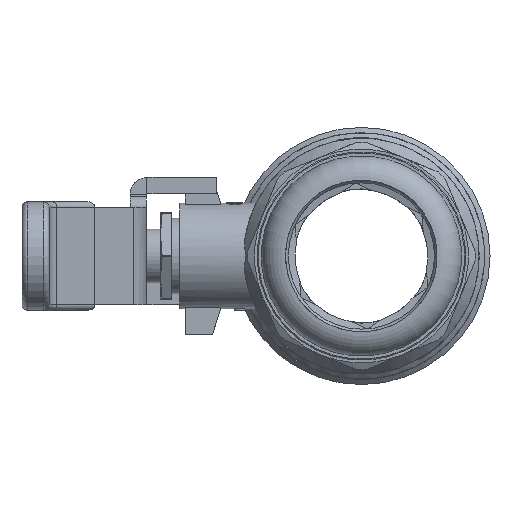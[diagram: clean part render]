
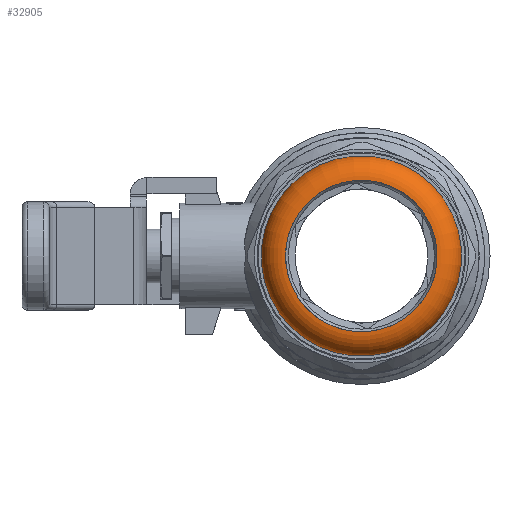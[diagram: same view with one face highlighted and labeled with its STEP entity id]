
A CAD part, left-side view. The second image highlights one B-rep face of the part: STEP entity #32905.
In plain terms, the highlighted toroidal (fillet/blend) face has major radius 14 mm and minor radius 4.5 mm.
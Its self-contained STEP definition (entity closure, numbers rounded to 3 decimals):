
#32874=CARTESIAN_POINT('',(-59.05,-14.719,10.181));
#32875=VERTEX_POINT('',#32874);
#32876=CARTESIAN_POINT('',(-59.05,0.0,0.0));
#32877=DIRECTION('',(1.,0.0,0.0));
#32878=DIRECTION('',(0.0,-0.822,0.569));
#32879=AXIS2_PLACEMENT_3D('',#32876,#32877,#32878);
#32880=CIRCLE('',#32879,17.897);
#32881=EDGE_CURVE('',#32875,#32875,#32880,.T.);
#32886=CARTESIAN_POINT('',(-61.3,0.,0.));
#32887=DIRECTION('',(1.0,0.0,0.0));
#32888=DIRECTION('',(0.0,0.0,-1.0));
#32889=AXIS2_PLACEMENT_3D('',#32886,#32887,#32888);
#32890=TOROIDAL_SURFACE('',#32889,14.,4.5);
#32891=CARTESIAN_POINT('',(-65.8,-11.514,7.964));
#32892=VERTEX_POINT('',#32891);
#32893=CARTESIAN_POINT('',(-65.8,0.,0.));
#32894=DIRECTION('',(1.,0.0,0.0));
#32895=DIRECTION('',(0.0,0.822,-0.569));
#32896=AXIS2_PLACEMENT_3D('',#32893,#32894,#32895);
#32897=CIRCLE('',#32896,14.);
#32898=EDGE_CURVE('',#32892,#32892,#32897,.T.);
#32899=ORIENTED_EDGE('',*,*,#32898,.T.);
#32900=EDGE_LOOP('',(#32899));
#32901=FACE_OUTER_BOUND('',#32900,.T.);
#32902=ORIENTED_EDGE('',*,*,#32881,.F.);
#32903=EDGE_LOOP('',(#32902));
#32904=FACE_BOUND('',#32903,.T.);
#32905=ADVANCED_FACE('',(#32901,#32904),#32890,.T.);
